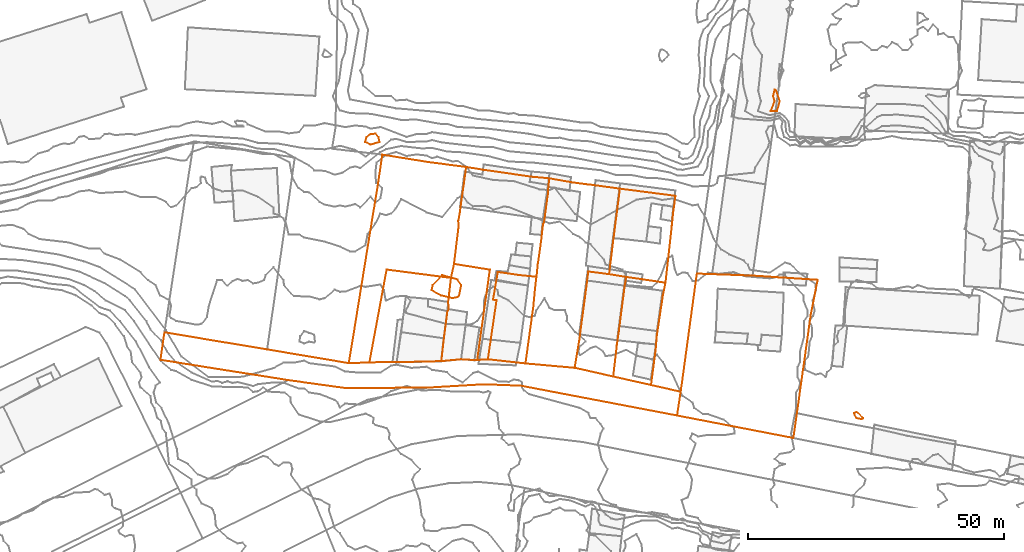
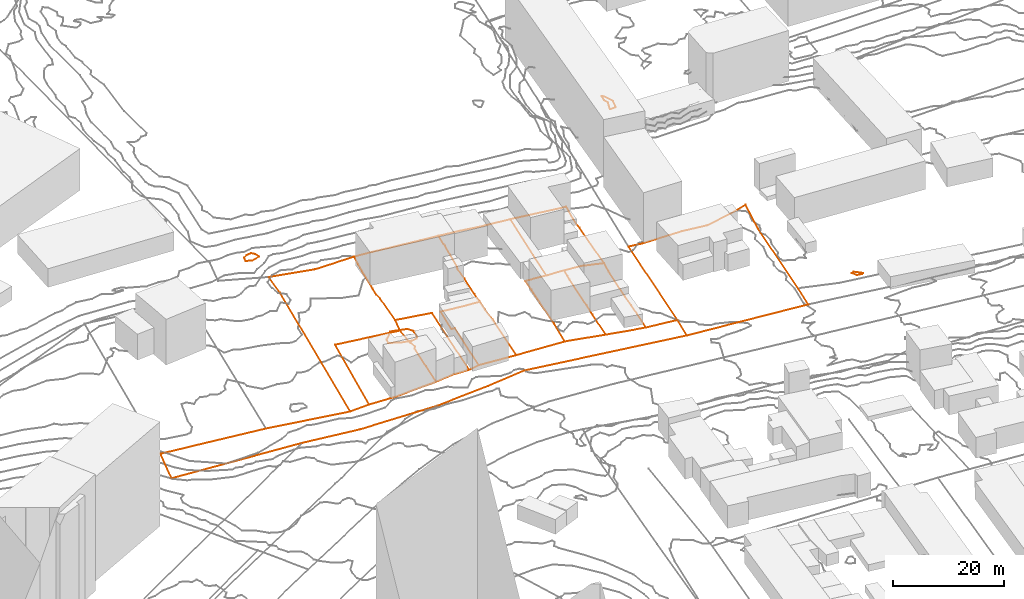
# Not in any storey, part 330 of 419: 15 proxies.
"""IFC2X3 model written with IfcOpenShell, lengths in metres."""

from ifc_helpers import new_model, entity, si_unit, frame, origin_with_axes, place, context, subcontext, project, element, save


model = new_model("IFC2X3")

# Units and contexts
model_context = context("Model", 3, precision=1e-05, world=origin_with_axes())
body_context = subcontext(model_context, "Body", "Model", "MODEL_VIEW")
ifc_project = project(units=[si_unit("AREAUNIT", "SQUARE_METRE"), si_unit("LENGTHUNIT", "METRE")], contexts=[model_context])

# Proxies
proxy_1_placement = place(None, frame((499.7320204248, 893.0376909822, 42.7941128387), z_axis=(0.0, 0.0, 1.0), x_axis=(1.0, 0.0, 0.0)))
element("IfcBuildingElementProxy", 1, at=proxy_1_placement, Name="Cadastre 277", ObjectType="NOTDEFINED", context=body_context, shape_type="GeometricCurveSet", body=[
    entity("IfcGeometricCurveSet", [entity("IfcPolyline", [entity("IfcCartesianPoint", [11.02, -1.6799999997, -0.1489757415]), entity("IfcCartesianPoint", [6.6, -1.0099999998, 0.3730208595]), entity("IfcCartesianPoint", [3.33, -0.5499999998, 0.2809178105]), entity("IfcCartesianPoint", [0.0, 0.0, 0.0]), entity("IfcCartesianPoint", [0.75, 6.1000000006, 0.5139745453]), entity("IfcCartesianPoint", [2.12, 16.7100000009, 1.4927071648]), entity("IfcCartesianPoint", [12.96, 15.3100000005, 1.2818388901]), entity("IfcCartesianPoint", [12.54, 12.1100000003, 0.656386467]), entity("IfcCartesianPoint", [12.26, 9.3900000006, 0.5110864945]), entity("IfcCartesianPoint", [11.02, -1.6799999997, -0.1489757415])])]),
])
proxy_2_placement = place(None, frame((483.3820204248, 875.5776909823, 41.567134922), z_axis=(0.0, 0.0, 1.0), x_axis=(1.0, 0.0, 0.0)))
element("IfcBuildingElementProxy", 2, at=proxy_2_placement, Name="Cadastre 278", ObjectType="NOTDEFINED", context=body_context, shape_type="GeometricCurveSet", body=[
    entity("IfcGeometricCurveSet", [entity("IfcPolyline", [entity("IfcCartesianPoint", [18.47, 34.1700000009, 2.7196850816]), entity("IfcCartesianPoint", [17.1, 23.5600000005, 1.740952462]), entity("IfcCartesianPoint", [16.35, 17.46, 1.2269779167]), entity("IfcCartesianPoint", [12.28, 17.9900000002, 1.1294451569]), entity("IfcCartesianPoint", [11.9399999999, 15.2400000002, 0.9938621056]), entity("IfcCartesianPoint", [10.54, 4.6700000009, 0.399879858]), entity("IfcCartesianPoint", [9.6, -0.8499999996, 0.1559011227]), entity("IfcCartesianPoint", [0.0, 0.0, 0.0]), entity("IfcCartesianPoint", [1.5499999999, 11.21, 0.4493949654]), entity("IfcCartesianPoint", [1.86, 14.5200000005, 0.5723154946]), entity("IfcCartesianPoint", [2.15, 16.9500000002, 0.6960972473]), entity("IfcCartesianPoint", [2.4, 19.3000000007, 0.9302401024]), entity("IfcCartesianPoint", [3.0699999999, 24.0700000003, 1.1597643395]), entity("IfcCartesianPoint", [3.4399999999, 27.2200000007, 1.2642045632]), entity("IfcCartesianPoint", [3.64, 27.6300000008, 1.349030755]), entity("IfcCartesianPoint", [4.4299999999, 33.4700000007, 2.2749644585]), entity("IfcCartesianPoint", [4.4199999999, 33.9500000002, 2.3486920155]), entity("IfcCartesianPoint", [4.66, 36.2000000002, 2.6833151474]), entity("IfcCartesianPoint", [8.89, 35.4400000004, 2.7868328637]), entity("IfcCartesianPoint", [12.15, 35.0200000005, 2.6717465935]), entity("IfcCartesianPoint", [13.73, 34.8300000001, 2.6569654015]), entity("IfcCartesianPoint", [18.47, 34.1700000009, 2.7196850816])])]),
])
proxy_3_placement = place(None, frame((469.4120204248, 895.0376909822, 42.3571606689), z_axis=(0.0, 0.0, 1.0), x_axis=(1.0, 0.0, 0.0)))
element("IfcBuildingElementProxy", 3, at=proxy_3_placement, Name="Cadastre 281", ObjectType="NOTDEFINED", context=body_context, shape_type="GeometricCurveSet", body=[
    entity("IfcGeometricCurveSet", [entity("IfcPolyline", [entity("IfcCartesianPoint", [18.63, 16.7400000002, 1.8932894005]), entity("IfcCartesianPoint", [18.3899999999, 14.4900000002, 1.5586662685]), entity("IfcCartesianPoint", [18.3999999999, 14.0100000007, 1.4849387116]), entity("IfcCartesianPoint", [17.61, 8.1700000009, 0.5590050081]), entity("IfcCartesianPoint", [17.4099999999, 7.7600000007, 0.4741788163]), entity("IfcCartesianPoint", [17.0399999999, 4.6100000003, 0.3697385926]), entity("IfcCartesianPoint", [16.37, -0.1599999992, 0.1402143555]), entity("IfcCartesianPoint", [16.12, -2.5099999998, -0.0939284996]), entity("IfcCartesianPoint", [13.0, -2.1999999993, -0.1335688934]), entity("IfcCartesianPoint", [12.1899999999, -2.0999999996, -0.1392145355]), entity("IfcCartesianPoint", [8.5499999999, -1.5599999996, -0.1723602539]), entity("IfcCartesianPoint", [7.63, -7.0, -0.3902204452]), entity("IfcCartesianPoint", [8.3199999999, -7.0999999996, -0.3803603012]), entity("IfcCartesianPoint", [6.61, -18.6399999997, -0.9285623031]), entity("IfcCartesianPoint", [4.5199999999, -18.7799999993, -1.1316690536]), entity("IfcCartesianPoint", [7.01, -1.1299999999, -0.1793282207]), entity("IfcCartesianPoint", [0.0, 0.0, 0.0]), entity("IfcCartesianPoint", [0.85, 6.9800000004, 0.2528236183]), entity("IfcCartesianPoint", [0.84, 8.3500000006, 0.2697704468]), entity("IfcCartesianPoint", [1.1399999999, 10.1800000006, 0.3556403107]), entity("IfcCartesianPoint", [2.11, 17.0200000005, 1.2959780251]), entity("IfcCartesianPoint", [2.37, 18.9600000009, 1.6397783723]), entity("IfcCartesianPoint", [5.7699999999, 18.4100000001, 1.82894846]), entity("IfcCartesianPoint", [15.13, 17.0500000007, 1.9305845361]), entity("IfcCartesianPoint", [18.63, 16.7400000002, 1.8932894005])])]),
])
proxy_4_placement = place(None, frame((448.8420204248, 875.627690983, 41.2316240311), z_axis=(0.0, 0.0, 1.0), x_axis=(1.0, 0.0, 0.0)))
element("IfcBuildingElementProxy", 4, at=proxy_4_placement, Name="Cadastre 282", ObjectType="NOTDEFINED", context=body_context, shape_type="GeometricCurveSet", body=[
    entity("IfcGeometricCurveSet", [entity("IfcPolyline", [entity("IfcCartesianPoint", [22.9400000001, 38.3700000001, 2.7653150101]), entity("IfcCartesianPoint", [22.6800000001, 36.4299999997, 2.4215146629]), entity("IfcCartesianPoint", [21.71, 29.5899999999, 1.4811769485]), entity("IfcCartesianPoint", [21.41, 27.7599999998, 1.3953070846]), entity("IfcCartesianPoint", [21.42, 26.3899999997, 1.3783602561]), entity("IfcCartesianPoint", [20.5700000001, 19.4099999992, 1.1255366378]), entity("IfcCartesianPoint", [19.97, 16.6699999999, 0.6927947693]), entity("IfcCartesianPoint", [7.39, 18.3099999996, 0.9845761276]), entity("IfcCartesianPoint", [4.02, 0.1599999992, 0.0097410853]), entity("IfcCartesianPoint", [0.0, 0.0, 0.0]), entity("IfcCartesianPoint", [5.75, 35.3599999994, 2.7198759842]), entity("IfcCartesianPoint", [6.55, 40.7799999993, 2.5474560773]), entity("IfcCartesianPoint", [15.38, 39.3499999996, 2.0335368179]), entity("IfcCartesianPoint", [22.9400000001, 38.3700000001, 2.7653150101])])]),
])
proxy_5_placement = place(None, frame((412.0020204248, 876.2876909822, 39.0230516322), z_axis=(0.0, 0.0, 1.0), x_axis=(1.0, 0.0, 0.0)))
element("IfcBuildingElementProxy", 5, at=proxy_5_placement, Name="Cadastre 307", ObjectType="NOTDEFINED", context=body_context, shape_type="GeometricCurveSet", body=[
    entity("IfcGeometricCurveSet", [entity("IfcPolyline", [entity("IfcCartesianPoint", [52.21, -5.4299999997, 0.9965156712]), entity("IfcCartesianPoint", [36.14, -5.5099999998, 1.4723780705]), entity("IfcCartesianPoint", [24.92, -3.96, 1.4567703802]), entity("IfcCartesianPoint", [0.0, 0.0, 0.0]), entity("IfcCartesianPoint", [0.79, 5.3800000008, 1.8566280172]), entity("IfcCartesianPoint", [20.87, 2.04, 2.4007887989]), entity("IfcCartesianPoint", [36.84, -0.6599999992, 2.2085723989]), entity("IfcCartesianPoint", [40.86, -0.5, 2.2183134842]), entity("IfcCartesianPoint", [45.41, -0.4099999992, 1.991524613]), entity("IfcCartesianPoint", [46.14, -0.46, 1.9875178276]), entity("IfcCartesianPoint", [54.9299999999, -0.25, 2.1715965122]), entity("IfcCartesianPoint", [58.78, 0.1200000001, 2.2210438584]), entity("IfcCartesianPoint", [61.41, -0.0499999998, 2.2127800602]), entity("IfcCartesianPoint", [61.9299999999, -0.0299999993, 2.2024399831]), entity("IfcCartesianPoint", [64.02, 0.1100000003, 2.4055467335]), entity("IfcCartesianPoint", [71.38, -0.71, 2.5440832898]), entity("IfcCartesianPoint", [80.98, -1.5599999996, 2.6999844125]), entity("IfcCartesianPoint", [88.54, -3.2599999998, 2.5902934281]), entity("IfcCartesianPoint", [92.4299999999, -4.1399999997, 2.5534489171]), entity("IfcCartesianPoint", [95.9299999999, -4.9299999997, 2.5893415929]), entity("IfcCartesianPoint", [101.73, -6.2399999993, 2.9983285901]), entity("IfcCartesianPoint", [101.02, -10.8899999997, 2.6754482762]), entity("IfcCartesianPoint", [70.46, -5.0499999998, 2.0963920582]), entity("IfcCartesianPoint", [63.16, -4.7799999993, 1.117310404]), entity("IfcCartesianPoint", [52.21, -5.4299999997, 0.9965156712])])]),
])
proxy_6_placement = place(None, frame((500.5420204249, 873.0276909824, 41.6133450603), z_axis=(0.0, 0.0, 1.0), x_axis=(1.0, 0.0, 0.0)))
element("IfcBuildingElementProxy", 6, at=proxy_6_placement, Name="Cadastre 309", ObjectType="NOTDEFINED", context=body_context, shape_type="GeometricCurveSet", body=[
    entity("IfcGeometricCurveSet", [entity("IfcPolyline", [entity("IfcCartesianPoint", [7.3899999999, -1.6699999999, -0.0009518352]), entity("IfcCartesianPoint", [3.8899999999, -0.8799999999, -0.036844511]), entity("IfcCartesianPoint", [0.0, 0.0, 0.0]), entity("IfcCartesianPoint", [0.7, 6.0800000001, 0.4887304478]), entity("IfcCartesianPoint", [1.1, 8.8600000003, 0.691455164]), entity("IfcCartesianPoint", [2.12, 16.7599999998, 1.2227941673]), entity("IfcCartesianPoint", [2.25, 17.7400000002, 1.3135756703]), entity("IfcCartesianPoint", [2.5199999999, 19.46, 1.4616855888]), entity("IfcCartesianPoint", [5.7899999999, 19.0, 1.5537886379]), entity("IfcCartesianPoint", [10.21, 18.3300000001, 1.0317920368]), entity("IfcCartesianPoint", [9.6899999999, 15.7599999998, 0.9658435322]), entity("IfcCartesianPoint", [8.5, 7.8300000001, 0.5970455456]), entity("IfcCartesianPoint", [8.2999999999, 5.2599999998, 0.4275556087]), entity("IfcCartesianPoint", [7.3899999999, -1.6699999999, -0.0009518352])])]),
])
proxy_7_placement = place(None, frame((513.0220204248, 865.3976909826, 41.6984999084), z_axis=(0.0, 0.0, 1.0), x_axis=(1.0, 0.0, 0.0)))
element("IfcBuildingElementProxy", 7, at=proxy_7_placement, Name="Cadastre 311", ObjectType="NOTDEFINED", context=body_context, shape_type="GeometricCurveSet", body=[
    entity("IfcGeometricCurveSet", [entity("IfcPolyline", [entity("IfcCartesianPoint", [3.87, 27.7599999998, 1.3704204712]), entity("IfcCartesianPoint", [6.87, 27.6500000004, 1.1164499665]), entity("IfcCartesianPoint", [14.8099999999, 27.3600000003, 1.1704120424]), entity("IfcCartesianPoint", [19.89, 27.0300000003, 0.8918526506]), entity("IfcCartesianPoint", [24.5, 26.7300000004, 2.0294011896]), entity("IfcCartesianPoint", [27.49, 26.54, 3.0413480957]), entity("IfcCartesianPoint", [26.13, 19.6799999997, 2.4630675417]), entity("IfcCartesianPoint", [23.4399999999, 0.46, 1.7951964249]), entity("IfcCartesianPoint", [22.73, -4.3999999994, 1.5458190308]), entity("IfcCartesianPoint", [0.0, 0.0, 0.0]), entity("IfcCartesianPoint", [0.71, 4.6500000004, 0.3228803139]), entity("IfcCartesianPoint", [3.87, 27.7599999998, 1.3704204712])])]),
])
proxy_8_placement = place(None, frame((476.0220204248, 876.3976909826, 41.4285983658), z_axis=(0.0, 0.0, 1.0), x_axis=(1.0, 0.0, 0.0)))
element("IfcBuildingElementProxy", 8, at=proxy_8_placement, Name="Cadastre 312", ObjectType="NOTDEFINED", context=body_context, shape_type="GeometricCurveSet", body=[
    entity("IfcGeometricCurveSet", [entity("IfcPolyline", [entity("IfcCartesianPoint", [0.0, 0.0, 0.0]), entity("IfcCartesianPoint", [1.71, 11.54, 0.548202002]), entity("IfcCartesianPoint", [1.02, 11.6399999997, 0.5383418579]), entity("IfcCartesianPoint", [1.9399999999, 17.0800000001, 0.7562020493]), entity("IfcCartesianPoint", [5.58, 16.54, 0.7893477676]), entity("IfcCartesianPoint", [6.39, 16.4400000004, 0.7949934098]), entity("IfcCartesianPoint", [9.51, 16.1299999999, 0.8346338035]), entity("IfcCartesianPoint", [9.22, 13.7000000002, 0.7108520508]), entity("IfcCartesianPoint", [8.9099999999, 10.3899999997, 0.5879315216]), entity("IfcCartesianPoint", [7.36, -0.8200000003, 0.1385365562]), entity("IfcCartesianPoint", [0.0, 0.0, 0.0])])]),
])
proxy_9_placement = place(None, frame((492.9820204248, 874.7276909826, 41.7230360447), z_axis=(0.0, 0.0, 1.0), x_axis=(1.0, 0.0, 0.0)))
element("IfcBuildingElementProxy", 9, at=proxy_9_placement, Name="Cadastre 313", ObjectType="NOTDEFINED", context=body_context, shape_type="GeometricCurveSet", body=[
    entity("IfcGeometricCurveSet", [entity("IfcPolyline", [entity("IfcCartesianPoint", [0.0, 0.0, 0.0]), entity("IfcCartesianPoint", [0.9400000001, 5.5200000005, 0.2439787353]), entity("IfcCartesianPoint", [2.34, 16.0899999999, 0.8379609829]), entity("IfcCartesianPoint", [2.6800000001, 18.8399999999, 0.9735440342]), entity("IfcCartesianPoint", [6.75, 18.3099999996, 1.071076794]), entity("IfcCartesianPoint", [10.08, 17.7599999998, 1.3519946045]), entity("IfcCartesianPoint", [9.8100000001, 16.04, 1.2038846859]), entity("IfcCartesianPoint", [9.6800000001, 15.0599999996, 1.113103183]), entity("IfcCartesianPoint", [8.66, 7.1600000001, 0.5817641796]), entity("IfcCartesianPoint", [8.26, 4.3799999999, 0.3790394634]), entity("IfcCartesianPoint", [7.5600000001, -1.7000000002, -0.1096909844]), entity("IfcCartesianPoint", [0.0, 0.0, 0.0])])]),
])
proxy_10_placement = place(None, frame((452.8620204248, 875.7876909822, 41.2413651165), z_axis=(0.0, 0.0, 1.0), x_axis=(1.0, 0.0, 0.0)))
element("IfcBuildingElementProxy", 10, at=proxy_10_placement, Name="Cadastre 314", ObjectType="NOTDEFINED", context=body_context, shape_type="GeometricCurveSet", body=[
    entity("IfcGeometricCurveSet", [entity("IfcPolyline", [entity("IfcCartesianPoint", [0.0, 0.0, 0.0]), entity("IfcCartesianPoint", [3.37, 18.1500000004, 0.9748350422]), entity("IfcCartesianPoint", [15.95, 16.5100000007, 0.6830536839]), entity("IfcCartesianPoint", [15.4, 11.7800000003, 1.0148014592]), entity("IfcCartesianPoint", [15.53, 10.4200000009, 0.9756360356]), entity("IfcCartesianPoint", [15.26, 10.0100000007, 0.9292349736]), entity("IfcCartesianPoint", [14.5699999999, 4.7300000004, 0.4448412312]), entity("IfcCartesianPoint", [14.0699999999, 0.25, -0.046716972]), entity("IfcCartesianPoint", [5.28, 0.04, -0.2307956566]), entity("IfcCartesianPoint", [4.55, 0.0900000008, -0.2267888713]), entity("IfcCartesianPoint", [0.0, 0.0, 0.0])])]),
])
proxy_11_placement = place(None, frame((466.9320204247, 876.0376909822, 41.1946481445), z_axis=(0.0, 0.0, 1.0), x_axis=(1.0, 0.0, 0.0)))
element("IfcBuildingElementProxy", 11, at=proxy_11_placement, Name="Cadastre 315", ObjectType="NOTDEFINED", context=body_context, shape_type="GeometricCurveSet", body=[
    entity("IfcGeometricCurveSet", [entity("IfcPolyline", [entity("IfcCartesianPoint", [0.0, 0.0, 0.0]), entity("IfcCartesianPoint", [0.5, 4.4800000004, 0.4915582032]), entity("IfcCartesianPoint", [1.1900000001, 9.7600000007, 0.9759519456]), entity("IfcCartesianPoint", [1.4600000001, 10.1700000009, 1.0223530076]), entity("IfcCartesianPoint", [1.3300000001, 11.5300000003, 1.0615184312]), entity("IfcCartesianPoint", [1.88, 16.2600000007, 0.7297706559]), entity("IfcCartesianPoint", [2.4800000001, 19.0, 1.1625125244]), entity("IfcCartesianPoint", [9.4900000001, 17.8700000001, 0.9831843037]), entity("IfcCartesianPoint", [7.0, 0.2200000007, 0.0308434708]), entity("IfcCartesianPoint", [6.4800000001, 0.2000000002, 0.041183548]), entity("IfcCartesianPoint", [3.8500000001, 0.3700000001, 0.0494473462]), entity("IfcCartesianPoint", [0.0, 0.0, 0.0])])]),
])
proxy_12_placement = place(None, frame((531.3178248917, 924.8976909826, 49.0), z_axis=(0.0, 0.0, 1.0), x_axis=(1.0, 0.0, 0.0)))
element("IfcBuildingElementProxy", 12, at=proxy_12_placement, Name="Contour 49.0 m", ObjectType="NOTDEFINED", context=body_context, shape_type="GeometricCurveSet", body=[
    entity("IfcGeometricCurveSet", [entity("IfcPolyline", [entity("IfcCartesianPoint", [1.2186423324, 0.0, 0.0]), entity("IfcCartesianPoint", [0.0, 0.0, 0.0]), entity("IfcCartesianPoint", [0.7478839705, 2.0, 0.0]), entity("IfcCartesianPoint", [0.4847210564, 3.0, 0.0]), entity("IfcCartesianPoint", [0.7741955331, 4.25, 0.0]), entity("IfcCartesianPoint", [1.1075288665, 4.0, 0.0]), entity("IfcCartesianPoint", [1.7742205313, 2.0, 0.0]), entity("IfcCartesianPoint", [1.2186423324, 0.0, 0.0])])]),
])
proxy_13_placement = place(None, frame((452.0150962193, 918.8976909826, 47.0), z_axis=(0.0, 0.0, 1.0), x_axis=(1.0, 0.0, 0.0)))
element("IfcBuildingElementProxy", 13, at=proxy_13_placement, Name="Contour 47.0 m", ObjectType="NOTDEFINED", context=body_context, shape_type="GeometricCurveSet", body=[
    entity("IfcGeometricCurveSet", [entity("IfcPolyline", [entity("IfcCartesianPoint", [2.8369187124, 0.0, 0.0]), entity("IfcCartesianPoint", [1.0769242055, -0.5000031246, 0.0]), entity("IfcCartesianPoint", [0.0, 0.0, 0.0]), entity("IfcCartesianPoint", [0.2912021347, 1.0, 0.0]), entity("IfcCartesianPoint", [1.0769242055, 1.5500009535, 0.0]), entity("IfcCartesianPoint", [2.0769242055, 1.6071389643, 0.0]), entity("IfcCartesianPoint", [2.6081689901, 1.0, 0.0]), entity("IfcCartesianPoint", [2.8369187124, 0.0, 0.0])])]),
])
proxy_14_placement = place(None, frame((464.9920185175, 889.8976909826, 42.0), z_axis=(0.0, 0.0, 1.0), x_axis=(1.0, 0.0, 0.0)))
element("IfcBuildingElementProxy", 14, at=proxy_14_placement, Name="Contour 42.0 m", ObjectType="NOTDEFINED", context=body_context, shape_type="GeometricCurveSet", body=[
    entity("IfcGeometricCurveSet", [entity("IfcPolyline", [entity("IfcCartesianPoint", [5.1000019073, -1.333333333, 0.0]), entity("IfcCartesianPoint", [5.4076987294, -1.0, 0.0]), entity("IfcCartesianPoint", [5.8142798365, 1.0, 0.0]), entity("IfcCartesianPoint", [5.1000019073, 2.1111134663, 0.0]), entity("IfcCartesianPoint", [2.1000019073, 2.9375104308, 0.0]), entity("IfcCartesianPoint", [0.2578913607, 1.0, 0.0]), entity("IfcCartesianPoint", [0.0, 0.0, 0.0]), entity("IfcCartesianPoint", [1.8777749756, -1.0, 0.0]), entity("IfcCartesianPoint", [4.1000019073, -1.55172187, 0.0]), entity("IfcCartesianPoint", [5.1000019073, -1.333333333, 0.0])])]),
])
proxy_15_placement = place(None, frame((547.5920704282, 865.8976909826, 43.0), z_axis=(0.0, 0.0, 1.0), x_axis=(1.0, 0.0, 0.0)))
element("IfcBuildingElementProxy", 15, at=proxy_15_placement, Name="Contour 43.0 m", ObjectType="NOTDEFINED", context=body_context, shape_type="GeometricCurveSet", body=[
    entity("IfcGeometricCurveSet", [entity("IfcPolyline", [entity("IfcCartesianPoint", [1.4999499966, -1.1999694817, 0.0]), entity("IfcCartesianPoint", [1.8332409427, -1.0, 0.0]), entity("IfcCartesianPoint", [0.4999499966, 0.1999694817, 0.0]), entity("IfcCartesianPoint", [0.0, 0.0, 0.0]), entity("IfcCartesianPoint", [0.5000499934, -1.0, 0.0]), entity("IfcCartesianPoint", [1.4999499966, -1.1999694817, 0.0])])]),
])

save(model, "model.ifc")
